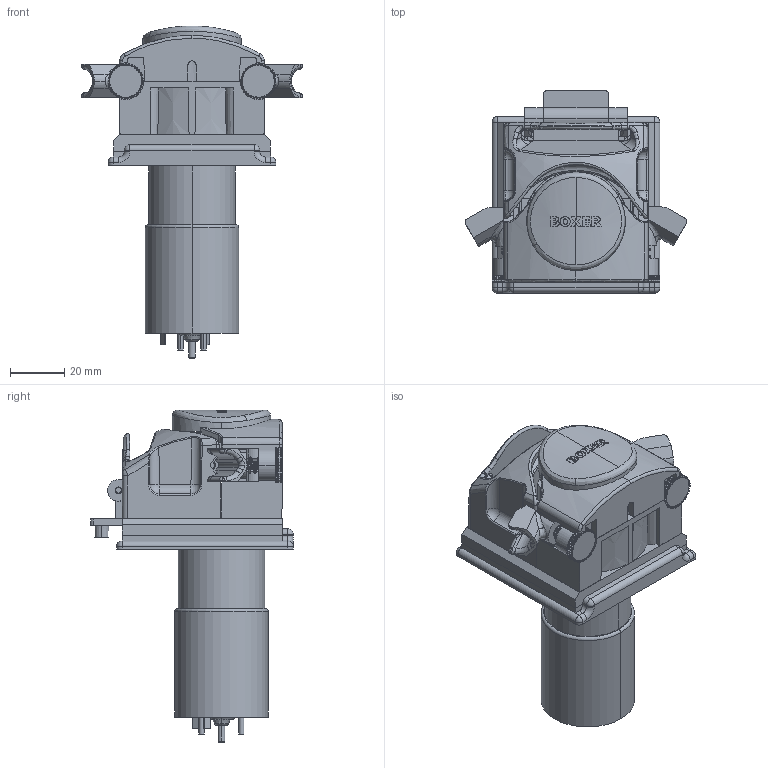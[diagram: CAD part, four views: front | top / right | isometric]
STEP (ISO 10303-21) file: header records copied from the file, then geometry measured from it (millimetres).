
FILE_DESCRIPTION (( 'STEP AP203' ), '1' );
FILE_NAME ('15KS-DC.STEP', '2015-10-04T08:34:40', ( 'USER' ), ( '' ), 'SwSTEP 2.0', 'SolidWorks 2014', '' );
FILE_SCHEMA (( 'CONFIG_CONTROL_DESIGN' ));
Length unit declared in the file: millimetre
Products named in the file (1): 15KS-DC
Bounding box: 81.81 x 74.75 x 122.6 mm (x, y, z)
Surface area: 47550.4 mm2 (no closed solid volume)
Topology: 0 solids, 20 shells, 1130 faces, 4388 edges, 3115 vertices
Faces by surface type: plane 362, cylinder 287, bspline 269, cone 141, torus 55, sphere 16
Entity records: 61381 total; most frequent: CARTESIAN_POINT 28267, ORIENTED_EDGE 7062, DIRECTION 6019, EDGE_CURVE 4382, VERTEX_POINT 3115, AXIS2_PLACEMENT_3D 2133, VECTOR 1753, LINE 1753
